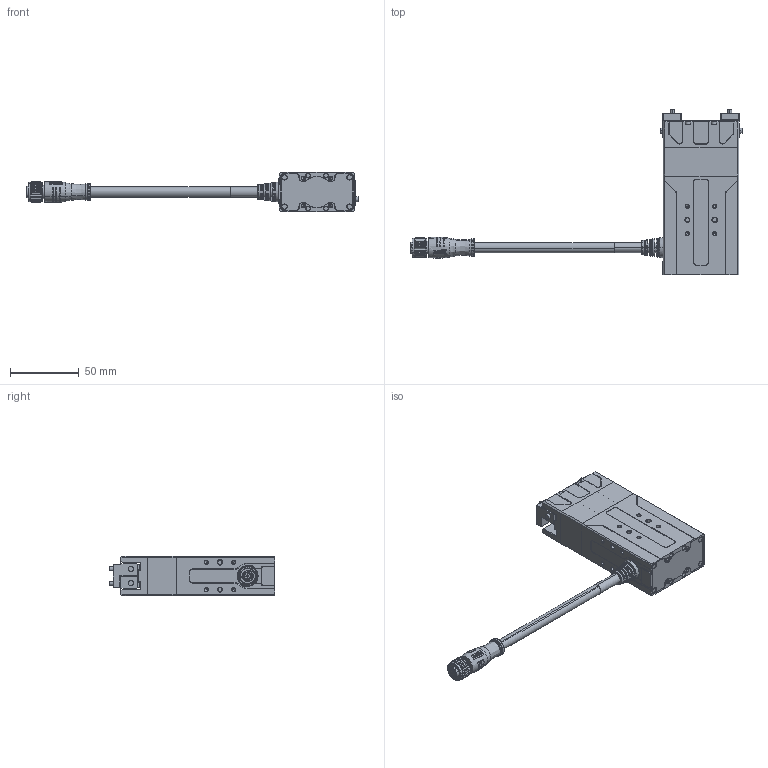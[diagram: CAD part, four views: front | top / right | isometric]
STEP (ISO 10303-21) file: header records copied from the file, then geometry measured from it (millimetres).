
FILE_DESCRIPTION (( 'STEP AP214' ), '1' );
FILE_NAME ('PGE-50-26-W-S.STEP', '2023-07-19T03:23:09', ( '' ), ( '' ), 'SwSTEP 2.0', 'SolidWorks 2020', '' );
FILE_SCHEMA (( 'AUTOMOTIVE_DESIGN' ));
Length unit declared in the file: millimetre
Products named in the file (3): PGE-50-26-W-S; PGE50忒硌價釱; 湍惕掅耜堤褲
Assembly tree (3 placements, depth 2):
  PGE-50-26-W-S
    湍惕掅耜堤褲
    PGE50忒硌價釱  x2
Bounding box: 242.2 x 120.8 x 29 mm (x, y, z)
Volume: 12225.4 mm3; surface area: 53392.2 mm2
Topology: 6 solids, 20 shells, 1922 faces, 4737 edges, 2906 vertices
Faces by surface type: plane 811, cylinder 442, cone 385, bspline 283, sphere 1
Full cylindrical faces by diameter (mm): 11.1 x3
Entity records: 88683 total; most frequent: CARTESIAN_POINT 28026, ORIENTED_EDGE 8840, DIRECTION 7755, EDGE_CURVE 4424, VERTEX_POINT 2761, AXIS2_PLACEMENT_3D 2759, VECTOR 2237, LINE 2237
